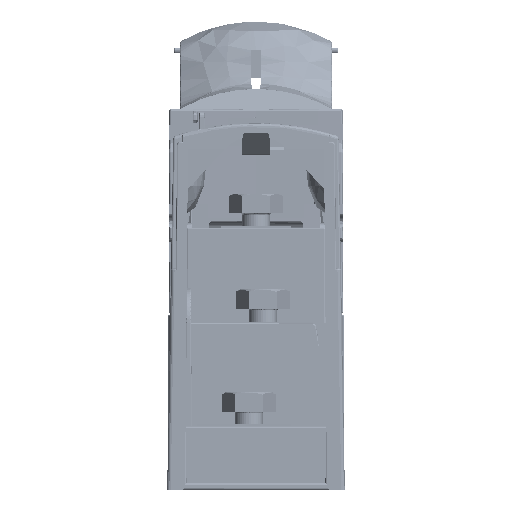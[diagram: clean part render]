
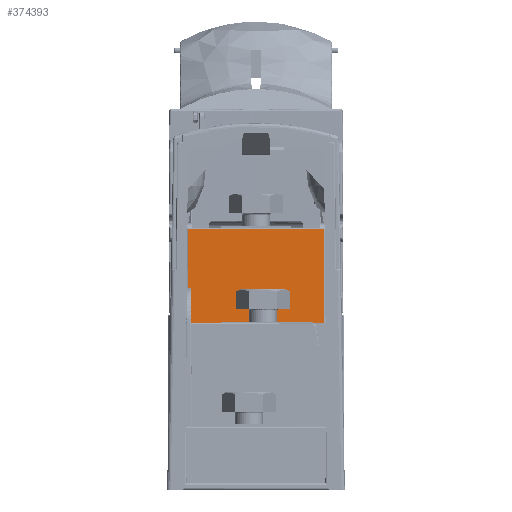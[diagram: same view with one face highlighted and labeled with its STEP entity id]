
A CAD part, left-side view. The second image highlights one B-rep face of the part: STEP entity #374393.
In plain terms, the highlighted planar face has unit normal (-1, 0, 0.009).
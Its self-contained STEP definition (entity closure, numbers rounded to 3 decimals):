
#13489 = EDGE_CURVE ( 'NONE', #394460, #394434, #219475, .T. ) ;
#13494 = EDGE_CURVE ( 'NONE', #394474, #394460, #219487, .T. ) ;
#31007 = ORIENTED_EDGE ( 'NONE', *, *, #401946, .T. ) ;
#31011 = ORIENTED_EDGE ( 'NONE', *, *, #401932, .T. ) ;
#31014 = ORIENTED_EDGE ( 'NONE', *, *, #398140, .T. ) ;
#31017 = ORIENTED_EDGE ( 'NONE', *, *, #398146, .T. ) ;
#31020 = ORIENTED_EDGE ( 'NONE', *, *, #398173, .T. ) ;
#31021 = ORIENTED_EDGE ( 'NONE', *, *, #402023, .F. ) ;
#31025 = ORIENTED_EDGE ( 'NONE', *, *, #402026, .F. ) ;
#31027 = ORIENTED_EDGE ( 'NONE', *, *, #402029, .T. ) ;
#31030 = ORIENTED_EDGE ( 'NONE', *, *, #398183, .T. ) ;
#31035 = ORIENTED_EDGE ( 'NONE', *, *, #398156, .T. ) ;
#31039 = ORIENTED_EDGE ( 'NONE', *, *, #13494, .T. ) ;
#31043 = ORIENTED_EDGE ( 'NONE', *, *, #13489, .T. ) ;
#31048 = ORIENTED_EDGE ( 'NONE', *, *, #401885, .T. ) ;
#31051 = ORIENTED_EDGE ( 'NONE', *, *, #398114, .F. ) ;
#39172 = CARTESIAN_POINT ( 'NONE',  ( -121.249, -3.592, 26.5 ) ) ;
#39182 = CARTESIAN_POINT ( 'NONE',  ( -121.25, -2., 26.363 ) ) ;
#39200 = CARTESIAN_POINT ( 'NONE',  ( -121.249, -0.408, 26.5 ) ) ;
#159883 = LINE ( 'NONE', #159888, #510770 ) ;
#159888 = CARTESIAN_POINT ( 'NONE',  ( -121.249, 19.8, 26.5 ) ) ;
#159892 = DIRECTION ( 'NONE',  ( 0., -1., 0. ) ) ;
#160672 = LINE ( 'NONE', #160682, #510909 ) ;
#160682 = CARTESIAN_POINT ( 'NONE',  ( -121.236, -19.322, 28. ) ) ;
#160687 = DIRECTION ( 'NONE',  ( 0.009, 0.009, 1. ) ) ;
#160926 = LINE ( 'NONE', #160933, #510960 ) ;
#160933 = CARTESIAN_POINT ( 'NONE',  ( -121.236, 19.8, 28. ) ) ;
#160934 = DIRECTION ( 'NONE',  ( 0., -1., 0. ) ) ;
#161998 = CARTESIAN_POINT ( 'NONE',  ( -121.151, 18.385, 37.703 ) ) ;
#162039 = LINE ( 'NONE', #162090, #511203 ) ;
#162047 = CARTESIAN_POINT ( 'NONE',  ( -121.149, 18.386, 37.877 ) ) ;
#162054 = CARTESIAN_POINT ( 'NONE',  ( -121.148, 18.51, 38. ) ) ;
#162061 = CARTESIAN_POINT ( 'NONE',  ( -121.148, 18.685, 38. ) ) ;
#162074 = CARTESIAN_POINT ( 'NONE',  ( -121.236, 19.8, 28. ) ) ;
#162090 = CARTESIAN_POINT ( 'NONE',  ( -121.236, 18.3, 28. ) ) ;
#162101 = LINE ( 'NONE', #162074, #511223 ) ;
#162106 = DIRECTION ( 'NONE',  ( 0.009, 0.009, 1. ) ) ;
#162141 = DIRECTION ( 'NONE',  ( 0., -1., 0. ) ) ;
#165076 = VERTEX_POINT ( 'NONE', #174964 ) ;
#165089 = VERTEX_POINT ( 'NONE', #174968 ) ;
#165121 = VERTEX_POINT ( 'NONE', #174987 ) ;
#165148 = VERTEX_POINT ( 'NONE', #175002 ) ;
#165159 = VERTEX_POINT ( 'NONE', #175009 ) ;
#165170 = VERTEX_POINT ( 'NONE', #175016 ) ;
#165211 = VERTEX_POINT ( 'NONE', #175044 ) ;
#174964 = CARTESIAN_POINT ( 'NONE',  ( -121.003, -19.089, 54.703 ) ) ;
#174968 = CARTESIAN_POINT ( 'NONE',  ( -121.249, -8.4, 26.5 ) ) ;
#174987 = CARTESIAN_POINT ( 'NONE',  ( -121.236, -8.413, 28. ) ) ;
#175002 = CARTESIAN_POINT ( 'NONE',  ( -121.249, 4.4, 26.5 ) ) ;
#175009 = CARTESIAN_POINT ( 'NONE',  ( -121.148, 19.235, 38. ) ) ;
#175016 = CARTESIAN_POINT ( 'NONE',  ( -121.148, 18.685, 38. ) ) ;
#175044 = CARTESIAN_POINT ( 'NONE',  ( -121.236, 4.413, 28. ) ) ;
#181571 = VERTEX_POINT ( 'NONE', #224757 ) ;
#181667 = VERTEX_POINT ( 'NONE', #224923 ) ;
#181670 = VERTEX_POINT ( 'NONE', #224928 ) ;
#197228 = VECTOR ( 'NONE', #360128, 1000. ) ;
#197347 = VECTOR ( 'NONE', #360963, 1000. ) ;
#197372 = VECTOR ( 'NONE', #361078, 1000. ) ;
#197421 = VECTOR ( 'NONE', #361425, 1000. ) ;
#197478 = VECTOR ( 'NONE', #361883, 1000. ) ;
#197492 = VECTOR ( 'NONE', #362091, 1000. ) ;
#219475 = B_SPLINE_CURVE_WITH_KNOTS ( 'NONE', 3,
 ( #345474, #345457, #345462, #345475 ),
 .UNSPECIFIED., .F., .F.,
 ( 4, 4 ),
 ( 0., 0.002 ),
 .UNSPECIFIED. ) ;
#219487 = B_SPLINE_CURVE_WITH_KNOTS ( 'NONE', 3,
 ( #345479, #345465, #345483, #345485 ),
 .UNSPECIFIED., .F., .F.,
 ( 4, 4 ),
 ( 0., 1. ),
 .UNSPECIFIED. ) ;
#224757 = CARTESIAN_POINT ( 'NONE',  ( -121.236, -19.322, 28. ) ) ;
#224923 = CARTESIAN_POINT ( 'NONE',  ( -121.151, 18.385, 37.703 ) ) ;
#224928 = CARTESIAN_POINT ( 'NONE',  ( -121.236, 18.3, 28. ) ) ;
#252409 = VERTEX_POINT ( 'NONE', #366273 ) ;
#319176 = PLANE ( 'NONE',  #450657 ) ;
#319319 = FACE_OUTER_BOUND ( 'NONE', #497789, .T. ) ;
#319436 = CARTESIAN_POINT ( 'NONE',  ( -121., 19.8, 55. ) ) ;
#319442 = DIRECTION ( 'NONE',  ( -1., 0., 0.009 ) ) ;
#319448 = DIRECTION ( 'NONE',  ( 0.009, 0., 1. ) ) ;
#345457 = CARTESIAN_POINT ( 'NONE',  ( -121.25, -2.535, 26.363 ) ) ;
#345462 = CARTESIAN_POINT ( 'NONE',  ( -121.249, -3.065, 26.411 ) ) ;
#345465 = CARTESIAN_POINT ( 'NONE',  ( -121.25, -0.951, 26.409 ) ) ;
#345474 = CARTESIAN_POINT ( 'NONE',  ( -121.25, -2., 26.363 ) ) ;
#345475 = CARTESIAN_POINT ( 'NONE',  ( -121.249, -3.592, 26.5 ) ) ;
#345479 = CARTESIAN_POINT ( 'NONE',  ( -121.249, -0.408, 26.5 ) ) ;
#345483 = CARTESIAN_POINT ( 'NONE',  ( -121.25, -1.481, 26.363 ) ) ;
#345485 = CARTESIAN_POINT ( 'NONE',  ( -121.25, -2., 26.363 ) ) ;
#360113 = LINE ( 'NONE', #360122, #197228 ) ;
#360122 = CARTESIAN_POINT ( 'NONE',  ( -121.236, -8.413, 28. ) ) ;
#360128 = DIRECTION ( 'NONE',  ( -0.009, 0.009, -1. ) ) ;
#360947 = LINE ( 'NONE', #360958, #197347 ) ;
#360958 = CARTESIAN_POINT ( 'NONE',  ( -121.003, 19.8, 54.703 ) ) ;
#360963 = DIRECTION ( 'NONE',  ( 0., 1., 0. ) ) ;
#361061 = LINE ( 'NONE', #361071, #197372 ) ;
#361071 = CARTESIAN_POINT ( 'NONE',  ( -121.003, 19.089, 54.703 ) ) ;
#361078 = DIRECTION ( 'NONE',  ( -0.009, 0.009, -1. ) ) ;
#361405 = LINE ( 'NONE', #361417, #197421 ) ;
#361417 = CARTESIAN_POINT ( 'NONE',  ( -121.249, 19.8, 26.5 ) ) ;
#361425 = DIRECTION ( 'NONE',  ( 0., -1., 0. ) ) ;
#361865 = LINE ( 'NONE', #361878, #197478 ) ;
#361878 = CARTESIAN_POINT ( 'NONE',  ( -121.148, 19.8, 38. ) ) ;
#361883 = DIRECTION ( 'NONE',  ( 0., -1., 0. ) ) ;
#362073 = LINE ( 'NONE', #362084, #197492 ) ;
#362084 = CARTESIAN_POINT ( 'NONE',  ( -121.236, 4.413, 28. ) ) ;
#362091 = DIRECTION ( 'NONE',  ( -0.009, -0.009, -1. ) ) ;
#366273 = CARTESIAN_POINT ( 'NONE',  ( -121.003, 19.089, 54.703 ) ) ;
#374393 = ADVANCED_FACE ( 'NONE', ( #319319 ), #319176, .T. ) ;
#394434 = VERTEX_POINT ( 'NONE', #39172 ) ;
#394460 = VERTEX_POINT ( 'NONE', #39182 ) ;
#394474 = VERTEX_POINT ( 'NONE', #39200 ) ;
#398114 = EDGE_CURVE ( 'NONE', #165121, #165089, #360113, .T. ) ;
#398140 = EDGE_CURVE ( 'NONE', #165076, #252409, #360947, .T. ) ;
#398146 = EDGE_CURVE ( 'NONE', #252409, #165159, #361061, .T. ) ;
#398156 = EDGE_CURVE ( 'NONE', #165148, #394474, #361405, .T. ) ;
#398173 = EDGE_CURVE ( 'NONE', #165159, #165170, #361865, .T. ) ;
#398183 = EDGE_CURVE ( 'NONE', #165211, #165148, #362073, .T. ) ;
#401885 = EDGE_CURVE ( 'NONE', #394434, #165089, #159883, .T. ) ;
#401932 = EDGE_CURVE ( 'NONE', #181571, #165076, #160672, .T. ) ;
#401946 = EDGE_CURVE ( 'NONE', #165121, #181571, #160926, .T. ) ;
#402023 = EDGE_CURVE ( 'NONE', #181667, #165170, #437774, .T. ) ;
#402026 = EDGE_CURVE ( 'NONE', #181670, #181667, #162039, .T. ) ;
#402029 = EDGE_CURVE ( 'NONE', #181670, #165211, #162101, .T. ) ;
#437774 =( BOUNDED_CURVE ( )  B_SPLINE_CURVE ( 3, ( #161998, #162047, #162054, #162061 ),
 .UNSPECIFIED., .F., .T. ) 
 B_SPLINE_CURVE_WITH_KNOTS ( ( 4, 4 ),
 ( 4.721, 6.283 ),
 .UNSPECIFIED. ) 
 CURVE ( )  GEOMETRIC_REPRESENTATION_ITEM ( )  RATIONAL_B_SPLINE_CURVE ( ( 1., 0.807, 0.807, 1. ) ) 
 REPRESENTATION_ITEM ( '' )  );
#450657 = AXIS2_PLACEMENT_3D ( 'NONE', #319436, #319442, #319448 ) ;
#497789 = EDGE_LOOP ( 'NONE', ( #31007, #31011, #31014, #31017, #31020, #31021, #31025, #31027, #31030, #31035, #31039, #31043, #31048, #31051 ) ) ;
#510770 = VECTOR ( 'NONE', #159892, 1000. ) ;
#510909 = VECTOR ( 'NONE', #160687, 1000. ) ;
#510960 = VECTOR ( 'NONE', #160934, 1000. ) ;
#511203 = VECTOR ( 'NONE', #162106, 1000. ) ;
#511223 = VECTOR ( 'NONE', #162141, 1000. ) ;
